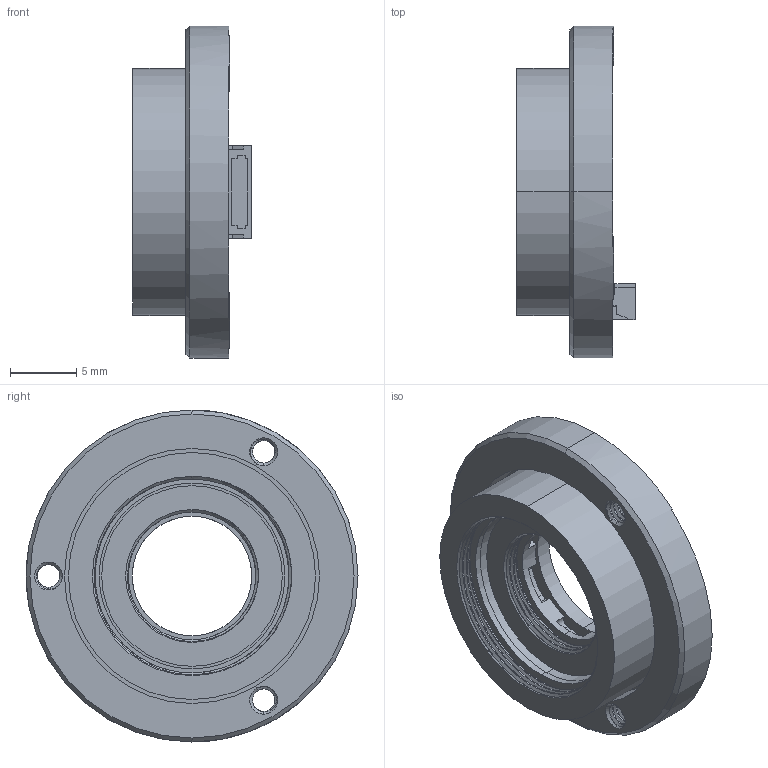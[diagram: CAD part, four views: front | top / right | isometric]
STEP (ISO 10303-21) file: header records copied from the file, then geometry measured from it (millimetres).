
FILE_DESCRIPTION (( 'STEP AP214' ), '1' );
FILE_NAME ('DPT-10-15-25 ¸üÐÂ.STEP', '2024-07-05T06:45:04', ( 'C' ), ( 'Microsoft' ), 'SwSTEP 2.0', 'SolidWorks 2016', '' );
FILE_SCHEMA (( 'AUTOMOTIVE_DESIGN' ));
Length unit declared in the file: millimetre
Products named in the file (1): DPT-10-15-25 載陔
Bounding box: 8.91 x 25 x 25 mm (x, y, z)
Volume: 1682.3 mm3; surface area: 3004.8 mm2
Topology: 8 solids, 8 shells, 432 faces, 1128 edges, 743 vertices
Faces by surface type: plane 196, cylinder 152, bspline 60, cone 24
Entity records: 21441 total; most frequent: CARTESIAN_POINT 8842, ORIENTED_EDGE 2256, DIRECTION 1910, EDGE_CURVE 1128, VERTEX_POINT 743, AXIS2_PLACEMENT_3D 641, VECTOR 628, LINE 628
